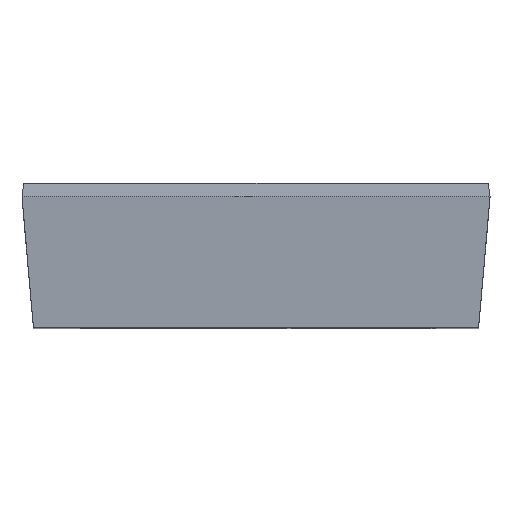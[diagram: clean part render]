
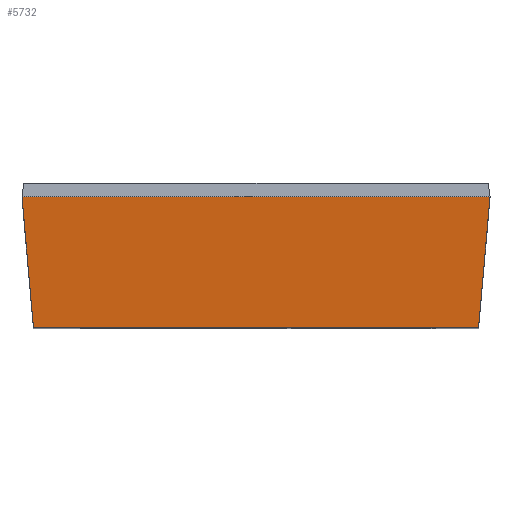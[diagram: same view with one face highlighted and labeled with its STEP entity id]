
A CAD part, top view. The second image highlights one B-rep face of the part: STEP entity #5732.
In plain terms, the highlighted planar face has unit normal (0, -0.087, 0.996).
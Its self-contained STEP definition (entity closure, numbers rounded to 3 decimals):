
#168=LINE('',#7482,#614);
#250=LINE('',#8442,#696);
#251=LINE('',#8444,#697);
#252=LINE('',#8446,#698);
#614=VECTOR('',#6345,1000.);
#696=VECTOR('',#6499,1000.);
#697=VECTOR('',#6502,1000.);
#698=VECTOR('',#6503,1000.);
#1008=PLANE('',#5982);
#1593=ORIENTED_EDGE('',*,*,#2576,.F.);
#1594=ORIENTED_EDGE('',*,*,#2577,.T.);
#1595=ORIENTED_EDGE('',*,*,#2578,.T.);
#1596=ORIENTED_EDGE('',*,*,#2452,.F.);
#2452=EDGE_CURVE('',#2995,#2996,#168,.T.);
#2576=EDGE_CURVE('',#3084,#2995,#250,.T.);
#2577=EDGE_CURVE('',#3084,#3085,#251,.T.);
#2578=EDGE_CURVE('',#3085,#2996,#252,.T.);
#2995=VERTEX_POINT('',#7481);
#2996=VERTEX_POINT('',#7483);
#3084=VERTEX_POINT('',#8441);
#3085=VERTEX_POINT('',#8445);
#3469=EDGE_LOOP('',(#1593,#1594,#1595,#1596));
#3773=FACE_BOUND('',#3469,.T.);
#5732=ADVANCED_FACE('',(#3773),#1008,.F.);
#5982=AXIS2_PLACEMENT_3D('',#8443,#6500,#6501);
#6345=DIRECTION('',(-1.,0.,0.));
#6499=DIRECTION('',(-0.087,-0.992,-0.087));
#6500=DIRECTION('',(0.,0.087,-0.996));
#6501=DIRECTION('',(0.,0.996,0.087));
#6502=DIRECTION('',(-1.,0.,0.));
#6503=DIRECTION('',(0.087,-0.992,-0.087));
#7481=CARTESIAN_POINT('',(4.965,-2.221,10.365));
#7482=CARTESIAN_POINT('',(5.22,-2.221,10.365));
#7483=CARTESIAN_POINT('',(-4.965,-2.221,10.365));
#8441=CARTESIAN_POINT('',(5.22,0.699,10.62));
#8442=CARTESIAN_POINT('',(5.22,0.699,10.62));
#8443=CARTESIAN_POINT('',(5.22,0.699,10.62));
#8444=CARTESIAN_POINT('',(5.22,0.699,10.62));
#8445=CARTESIAN_POINT('',(-5.22,0.699,10.62));
#8446=CARTESIAN_POINT('',(-5.141,-0.201,10.541));
